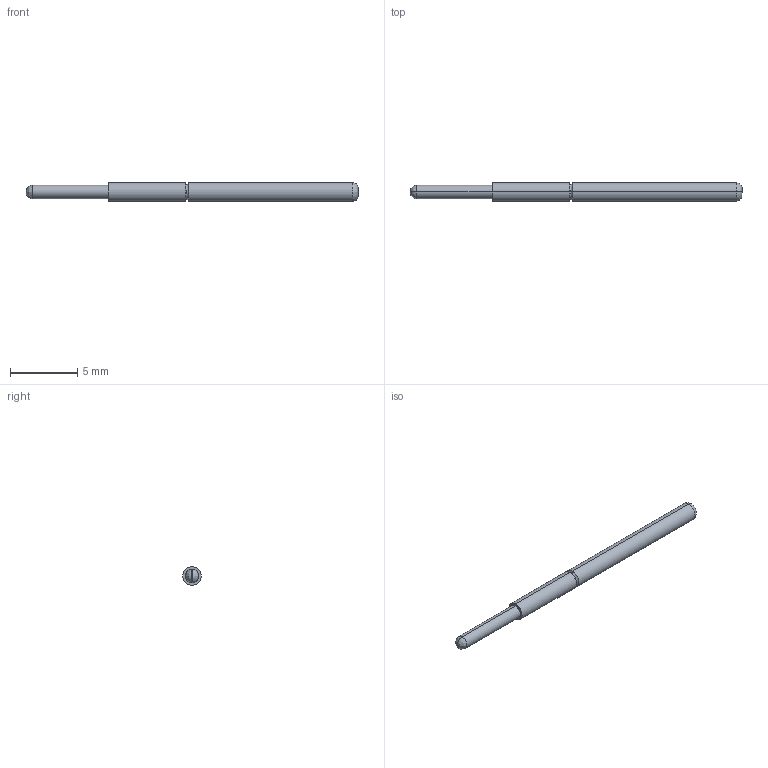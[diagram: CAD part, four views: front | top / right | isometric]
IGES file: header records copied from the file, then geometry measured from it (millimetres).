
Start section: SolidWorks IGES file using analytic representation for surfaces
Global section: file name: O:\PYLON\IGES FILES\P3158\P3158G-1R1S.IGS; native system: SolidWorks 2015; preprocessor: SolidWorks 2015; author: kgolden; date: 171020.061105; units: inch
Bounding box: 24.64 x 1.37 x 1.37 mm (x, y, z)
Surface area: 106.2 mm2 (no closed solid volume)
Topology: 0 solids, 0 shells, 19 faces, 120 edges, 120 vertices
Faces by surface type: bspline 11, revolution 8
